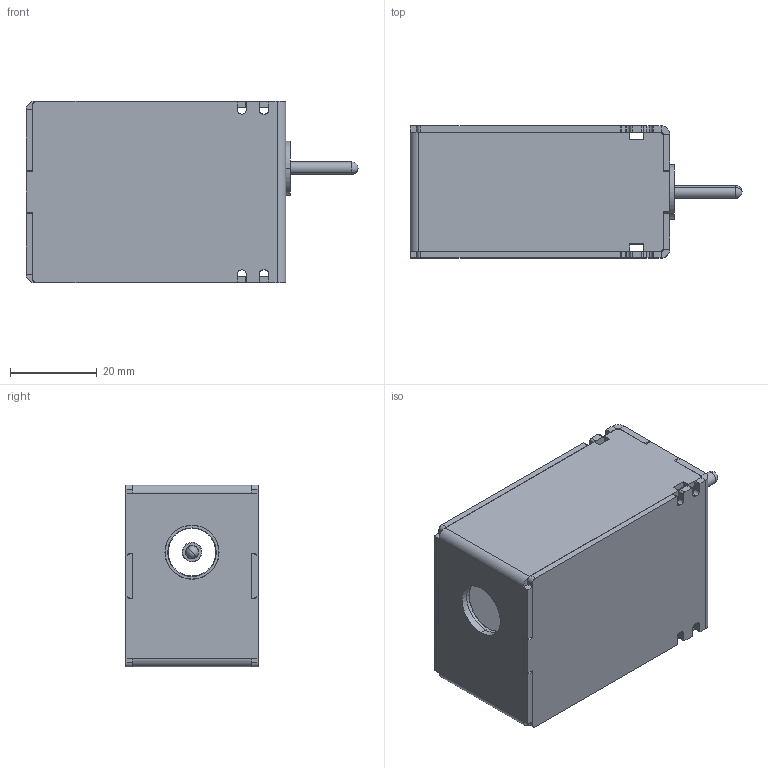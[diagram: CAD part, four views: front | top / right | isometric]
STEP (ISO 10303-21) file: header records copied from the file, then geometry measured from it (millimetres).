
FILE_DESCRIPTION (( 'STEP AP203' ), '1' );
FILE_NAME ('1600煦療.STEP', '2024-09-20T10:24:17', ( 'A' ), ( '' ), 'SwSTEP 2.0', 'SolidWorks 2018', '' );
FILE_SCHEMA (( 'CONFIG_CONTROL_DESIGN' ));
Length unit declared in the file: millimetre
Products named in the file (1): 1600ｷﾖﾀ､_｡ｧ｡鐇
Bounding box: 76.65 x 30.5 x 42 mm (x, y, z)
Volume: 16547.3 mm3; surface area: 24314 mm2
Topology: 7 solids, 7 shells, 298 faces, 767 edges, 491 vertices
Faces by surface type: plane 165, cylinder 82, torus 26, bspline 17, sphere 4, cone 4
Entity records: 9417 total; most frequent: CARTESIAN_POINT 2034, ORIENTED_EDGE 1518, DIRECTION 1512, EDGE_CURVE 759, AXIS2_PLACEMENT_3D 505, LINE 502, VECTOR 502, VERTEX_POINT 487
